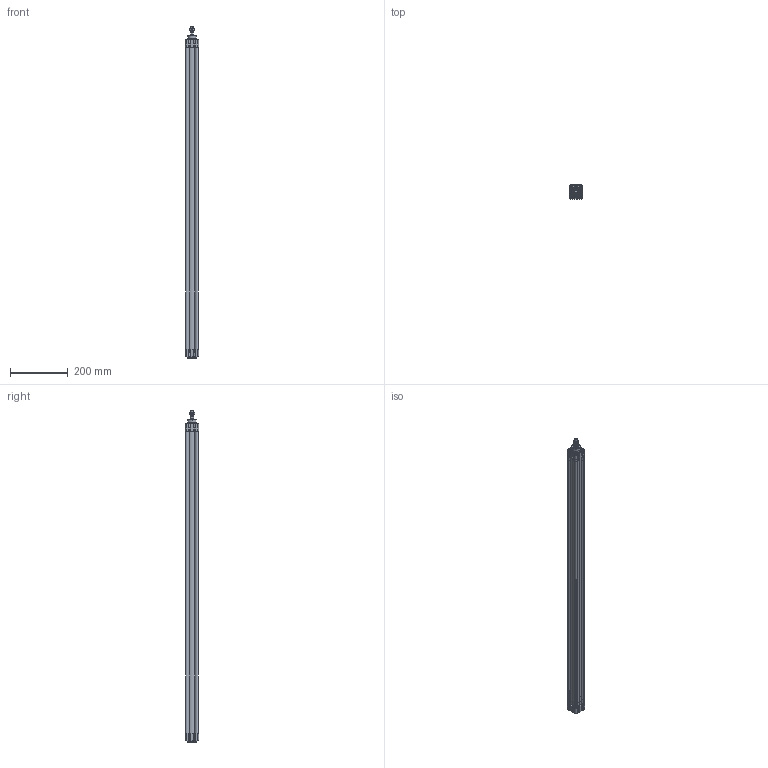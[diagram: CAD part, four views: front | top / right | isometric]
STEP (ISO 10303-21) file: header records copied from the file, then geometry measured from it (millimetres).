
FILE_DESCRIPTION (( 'STEP AP214' ), '1' );
FILE_NAME ('E11M20321000.STEP', '2021-10-25T14:14:30', ( '' ), ( '' ), 'SwSTEP 2.0', 'SolidWorks 2016', '' );
FILE_SCHEMA (( 'AUTOMOTIVE_DESIGN' ));
Length unit declared in the file: millimetre
Products named in the file (7): 21.A01.0000_21.A01.1000; 21.750.0; E11M20321000; TA Ø32 ISO 15552 WEB; 000.530.7_000.530.1000; Pistone Ø32 ISO 15552; TP Ø32 ISO 15552 WEB
Assembly tree (6 placements, depth 2):
  E11M20321000
    TP Ø32 ISO 15552 WEB
    TA Ø32 ISO 15552 WEB
    Pistone Ø32 ISO 15552
    000.530.7_000.530.1000
    21.A01.0000_21.A01.1000
    21.750.0
Bounding box: 47.07 x 47.07 x 1147 mm (x, y, z)
Volume: 789674.1 mm3; surface area: 571964 mm2
Topology: 18 solids, 18 shells, 1665 faces, 4201 edges, 2657 vertices
Faces by surface type: plane 799, cylinder 516, cone 178, torus 98, bspline 74
Entity records: 66891 total; most frequent: CARTESIAN_POINT 10244, DIRECTION 8723, ORIENTED_EDGE 8402, EDGE_CURVE 4201, AXIS2_PLACEMENT_3D 3124, VERTEX_POINT 2657, LINE 2475, VECTOR 2475
